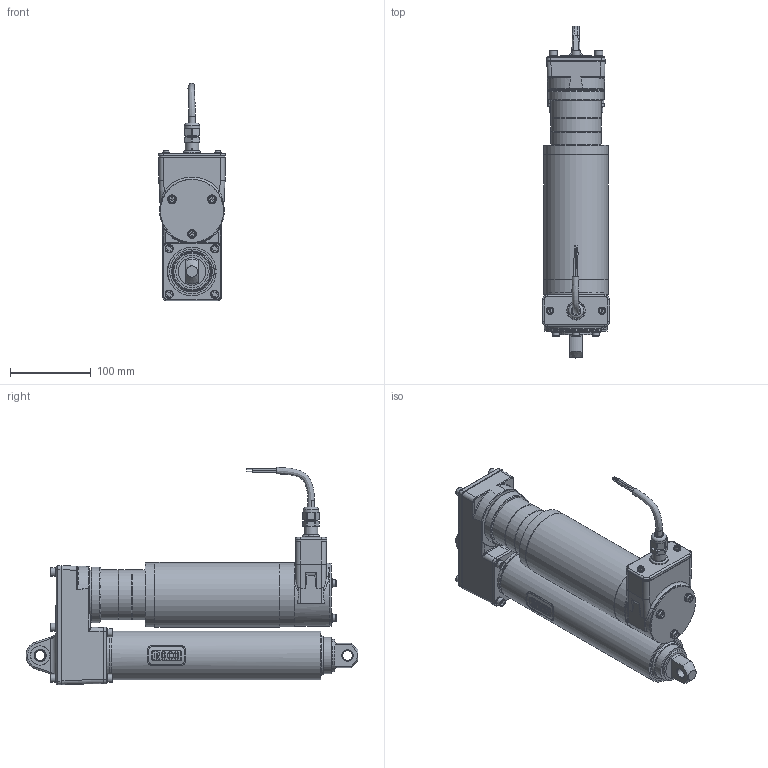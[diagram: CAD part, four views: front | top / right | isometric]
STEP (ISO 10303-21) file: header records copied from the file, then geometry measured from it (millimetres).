
FILE_DESCRIPTION(/* description */ ('Unknown'),/* implementation_level */ '2;1');
FILE_NAME(/* name */ 'T6N4-DC-0200-163-538-7',/* time_stamp */ '2025-07-21T09:57:21+02:00',/* author */ ('Unknown'),/* organization */ ('Unknown'),/* preprocessor_version */ 'ST-DEVELOPER v19.4',/* originating_system */ 'Solid Edge',/* authorisation */ 'Unknown');
FILE_SCHEMA (('AUTOMOTIVE_DESIGN {1 0 10303 214 3 1 1}'));
Length unit declared in the file: millimetre
Products named in the file (8): 163-538-7; 12.00-C2_4_Auge; 01.01-C4_kpl_Gabelauge; 01.15-C4-0200; 02.14-C4-0200; 04.41-C4 PLG62; PLG-Motor-DC; DOM-Anschlusskabel
Assembly tree (7 placements, depth 2):
  163-538-7
    12.00-C2_4_Auge
    01.01-C4_kpl_Gabelauge
    01.15-C4-0200
    02.14-C4-0200
    04.41-C4 PLG62
    PLG-Motor-DC
    DOM-Anschlusskabel
Bounding box: 83 x 410.46 x 268.6 mm (x, y, z)
Volume: 2825182.4 mm3; surface area: 306855.7 mm2
Topology: 8 solids, 15 shells, 988 faces, 2393 edges, 1541 vertices
Faces by surface type: plane 543, cylinder 309, bspline 55, cone 44, torus 37
Full cylindrical faces by diameter (mm): 1 x18, 1.5 x1, 2 x4, 4 x2, 4.01 x2, 4.3 x2, 8 x1, 8.5 x3, 8.7 x1, 9 x5, 10 x9, 10.05 x8, 11 x3, 11.4 x1, 12 x2, 12.4 x1, 13.4 x1, 13.5 x2, 13.86 x2, 14 x3, 15 x1, 15.2 x2, 16.509 x1, 17 x1, 17.281 x1, 18.256 x1, 19 x2, 22 x1, 24 x2, 38.9 x1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
Entity records: 36481 total; most frequent: CARTESIAN_POINT 7588, DIRECTION 4450, ORIENTED_EDGE 4314, EDGE_CURVE 2157, AXIS2_PLACEMENT_3D 1698, VERTEX_POINT 1482, FACE_BOUND 1309, EDGE_LOOP 1305
